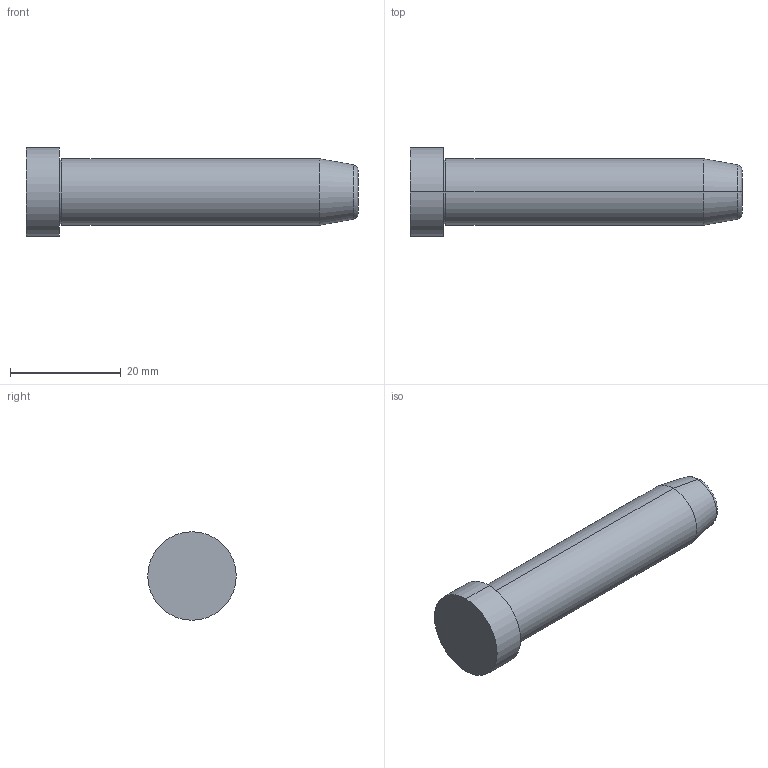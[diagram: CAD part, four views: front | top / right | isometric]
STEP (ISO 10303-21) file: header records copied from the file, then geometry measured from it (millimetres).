
FILE_DESCRIPTION( ( 'STEP AP203' ), '1' );
FILE_NAME( 'D:/Delta 3 D/D01D/12/D01D - 12x60.step', '2003-01-02T23:14:00', ( ' ' ), ( ' ' ), 'XStep 1.0', ' ', ' ' );
FILE_SCHEMA( ( 'CONFIG_CONTROL_DESIGN' ) );
Length unit declared in the file: metre
Products named in the file (1): 1
Bounding box: 60 x 16 x 16 mm (x, y, z)
Volume: 7153.2 mm3; surface area: 2683.1 mm2
Topology: 1 solids, 1 shells, 14 faces, 26 edges, 16 vertices
Faces by surface type: revolution 8, bspline 6
Entity records: 437 total; most frequent: CARTESIAN_POINT 121, ORIENTED_EDGE 52, DIRECTION 50, EDGE_CURVE 26, AXIS2_PLACEMENT_3D 17, EDGE_LOOP 16, VERTEX_POINT 16, CIRCLE 16
